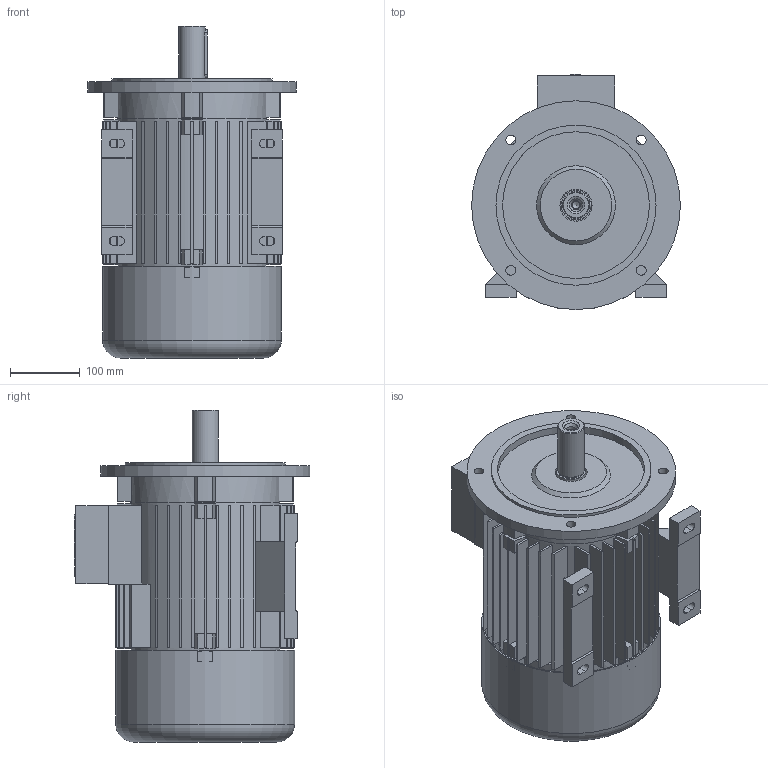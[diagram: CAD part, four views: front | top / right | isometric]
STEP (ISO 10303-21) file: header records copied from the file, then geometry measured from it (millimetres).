
FILE_DESCRIPTION (( 'STEP AP214' ), '1' );
FILE_NAME ('20.18275-D 5AZ 132S B35 STANDK.STEP', '2020-07-08T07:52:09', ( '' ), ( '' ), 'SwSTEP 2.0', 'SolidWorks 2020', '' );
FILE_SCHEMA (( 'AUTOMOTIVE_DESIGN' ));
Length unit declared in the file: millimetre
Products named in the file (1): 20.18275-D 5AZ 132S B35 STANDK
Bounding box: 300 x 338 x 477 mm (x, y, z)
Volume: 6048270.1 mm3; surface area: 1466439.1 mm2
Topology: 7 solids, 7 shells, 464 faces, 1177 edges, 783 vertices
Faces by surface type: plane 346, cylinder 107, cone 9, torus 2
Full cylindrical faces by diameter (mm): 10.5 x1, 13 x1, 14 x4, 36.4 x1, 38 x1, 42 x1, 46 x2, 91.786 x1, 92.143 x1, 113.36 x1, 113.76 x1, 197.5 x1, 198.16 x1, 202.16 x1, 210.833 x1, 214 x2, 222 x1, 230 x1, 253 x1, 257 x1, 300 x1
Entity records: 13873 total; most frequent: CARTESIAN_POINT 2448, DIRECTION 2387, ORIENTED_EDGE 2244, EDGE_CURVE 1122, AXIS2_PLACEMENT_3D 810, VECTOR 767, VERTEX_POINT 767, LINE 767
